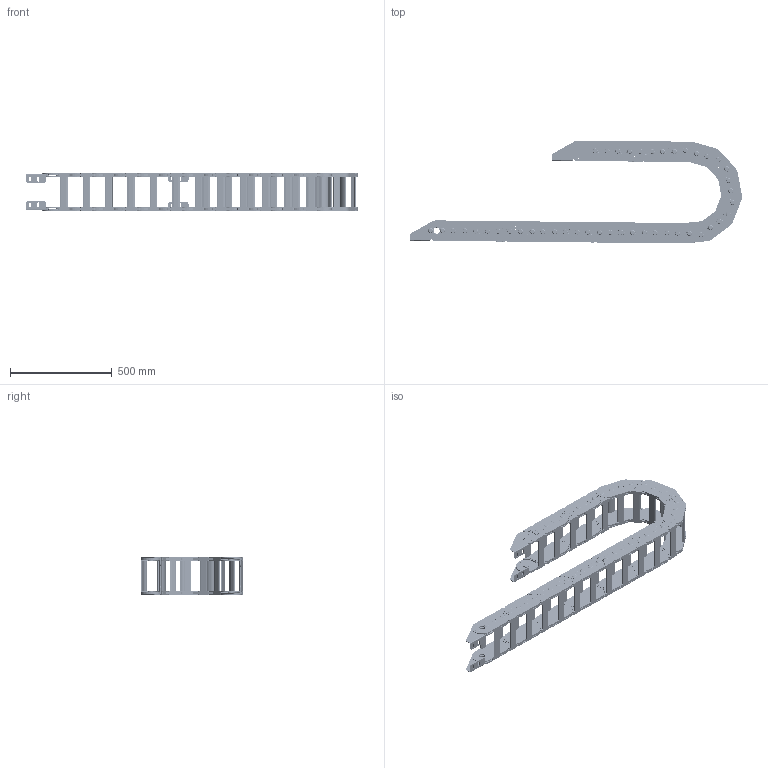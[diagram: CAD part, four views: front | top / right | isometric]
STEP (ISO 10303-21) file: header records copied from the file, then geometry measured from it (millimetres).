
FILE_DESCRIPTION((''),'2;1');
FILE_NAME('80GD-75-R200_ASM','2022-07-31T16:14:47',('admin'),(''),'CREO PARAMETRIC BY PTC INC, 2021164','CREO PARAMETRIC BY PTC INC, 2021164','');
FILE_SCHEMA(('CONFIG_CONTROL_DESIGN','GEOMETRIC_VALIDATION_PROPERTIES_MIM'));
Length unit declared in the file: millimetre
Products named in the file (5): 80-A; 80-B; 80-LTT; 80-LTT-2; 80GD-75-R200_ASM
Assembly tree (24 placements, depth 2):
  80GD-75-R200_ASM
    80-A  x11
    80-B  x11
    80-LTT
    80-LTT-2
Bounding box: 1627.46 x 504.42 x 190.3 mm (x, y, z)
Volume: 10983919 mm3; surface area: 3433467.9 mm2
Topology: 92 solids, 92 shells, 3900 faces, 10566 edges, 7162 vertices
Faces by surface type: cylinder 1728, plane 1556, torus 440, cone 176
Entity records: 21405 total; most frequent: DIRECTION 3086, CARTESIAN_POINT 2850, ORIENTED_EDGE 2732, EDGE_CURVE 1366, AXIS2_PLACEMENT_3D 1191, PRESENTATION_STYLE_ASSIGNMENT 1114, STYLED_ITEM 1114, VERTEX_POINT 922
